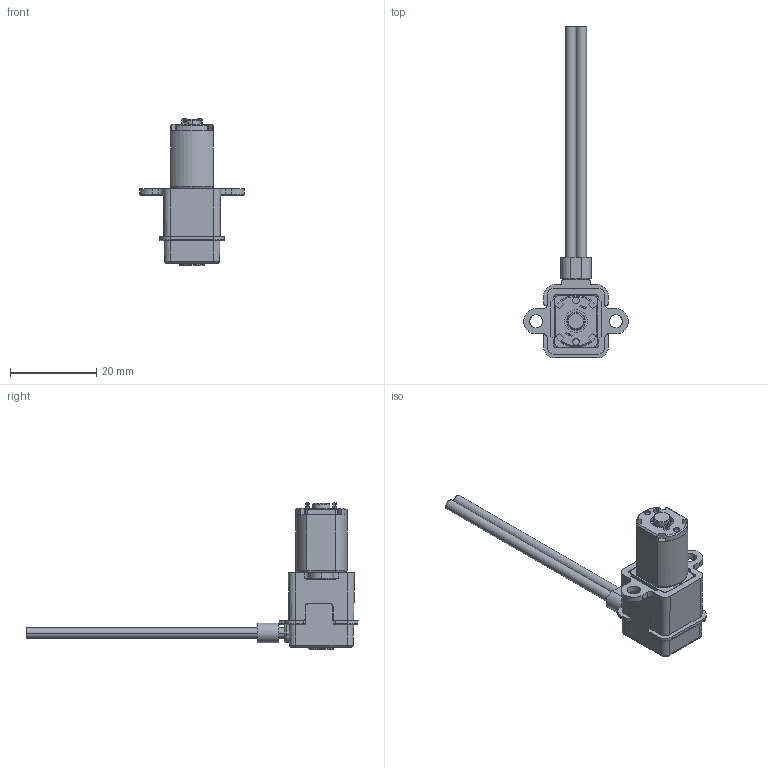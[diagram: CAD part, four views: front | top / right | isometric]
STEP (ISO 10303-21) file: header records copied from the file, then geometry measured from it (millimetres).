
FILE_DESCRIPTION (( 'STEP AP214' ), '1' );
FILE_NAME ('Newmotor-forWEB_RP-QIII_QIIIX_QIIIA.STEP', '2022-01-20T05:45:19', ( '' ), ( '' ), 'SwSTEP 2.0', 'SolidWorks 2021', '' );
FILE_SCHEMA (( 'AUTOMOTIVE_DESIGN' ));
Length unit declared in the file: millimetre
Products named in the file (10): Newmotor-forWEB_RP-QIII_QIIIX_QIIIA; RP-Q1.2_GEAR BASE; New motor unit for web; CASE3; ROTOR3; BASE; Sara Screw M1.4-2; RP-Q1.2 Motor1; TUBE3; チューブ押え
Assembly tree (10 placements, depth 3):
  Newmotor-forWEB_RP-QIII_QIIIX_QIIIA
    CASE3
    ROTOR3
    TUBE3
    BASE
    チューブ押え
    New motor unit for web
      RP-Q1.2 Motor1
      RP-Q1.2_GEAR BASE
      Sara Screw M1.4-2  x2
Bounding box: 24.3 x 77 x 34.05 mm (x, y, z)
Volume: 5354.9 mm3; surface area: 5394.4 mm2
Topology: 10 solids, 13 shells, 500 faces, 1232 edges, 787 vertices
Faces by surface type: plane 226, cylinder 138, cone 96, torus 29, bspline 11
Entity records: 14683 total; most frequent: CARTESIAN_POINT 2953, DIRECTION 2389, ORIENTED_EDGE 2324, EDGE_CURVE 1162, AXIS2_PLACEMENT_3D 869, VERTEX_POINT 743, LINE 651, VECTOR 651
